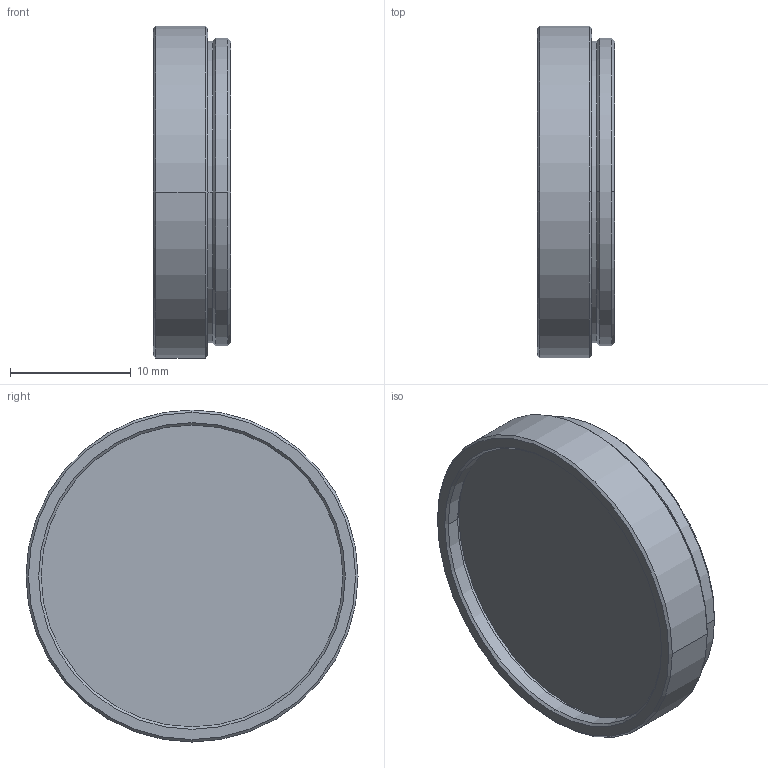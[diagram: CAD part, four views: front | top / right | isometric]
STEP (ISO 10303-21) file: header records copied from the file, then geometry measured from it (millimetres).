
FILE_DESCRIPTION (( 'STEP AP203' ), '1' );
FILE_NAME ('SV-□□□-255(GA_G533_R60series).STEP', '2017-08-22T00:45:07', ( 'miura_vst' ), ( '' ), 'SwSTEP 2.0', 'SolidWorks 2017', '' );
FILE_SCHEMA (( 'CONFIG_CONTROL_DESIGN' ));
Length unit declared in the file: millimetre
Products named in the file (1): SV-□□□-255(GA_G533_R60series)
Bounding box: 6.4 x 27.5 x 27.5 mm (x, y, z)
Volume: 2782.8 mm3; surface area: 1888.6 mm2
Topology: 1 solids, 1 shells, 25 faces, 60 edges, 40 vertices
Faces by surface type: cone 10, cylinder 10, plane 5
Entity records: 831 total; most frequent: DIRECTION 152, CARTESIAN_POINT 126, ORIENTED_EDGE 120, AXIS2_PLACEMENT_3D 66, EDGE_CURVE 60, CIRCLE 40, VERTEX_POINT 40, EDGE_LOOP 28
